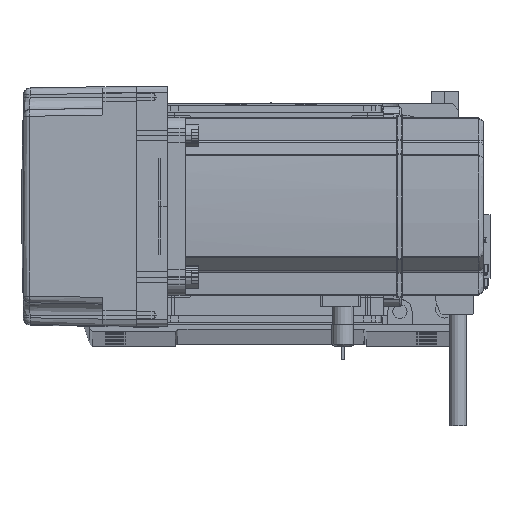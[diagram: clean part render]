
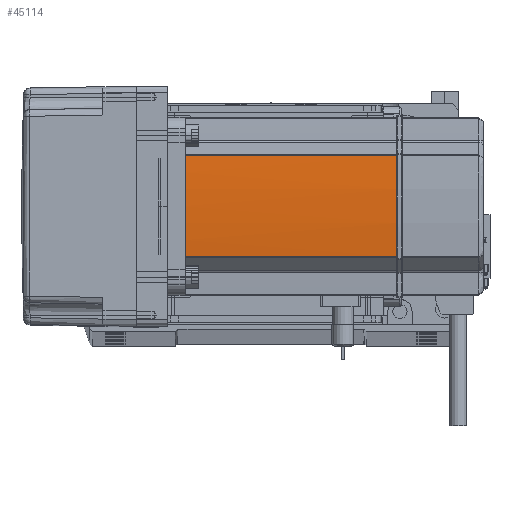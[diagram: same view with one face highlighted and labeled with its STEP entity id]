
A CAD part, top view. The second image highlights one B-rep face of the part: STEP entity #45114.
In plain terms, the highlighted cylindrical face has radius 270 mm (diameter 540 mm), a partial arc.
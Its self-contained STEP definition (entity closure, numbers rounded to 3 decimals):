
#333 = AXIS2_PLACEMENT_3D ( 'NONE', #58511, #30878, #15181 ) ;
#1460 = CARTESIAN_POINT ( 'NONE',  ( 39.042, 22.724, 134. ) ) ;
#2393 = DIRECTION ( 'NONE',  ( -1., 0., 0. ) ) ;
#5923 = ORIENTED_EDGE ( 'NONE', *, *, #41683, .T. ) ;
#6981 = LINE ( 'NONE', #17714, #56287 ) ;
#7133 = CARTESIAN_POINT ( 'NONE',  ( -230., 0., 134. ) ) ;
#8818 = CARTESIAN_POINT ( 'NONE',  ( 40., 0.127, 134. ) ) ;
#11813 = CARTESIAN_POINT ( 'NONE',  ( 39.042, 22.724, 39. ) ) ;
#13848 = CIRCLE ( 'NONE', #26458, 270. ) ;
#15181 = DIRECTION ( 'NONE',  ( -1., 0., 0. ) ) ;
#15547 = EDGE_CURVE ( 'NONE', #33854, #18395, #16710, .T. ) ;
#16414 = ORIENTED_EDGE ( 'NONE', *, *, #24949, .F. ) ;
#16710 = LINE ( 'NONE', #57377, #26766 ) ;
#17714 = CARTESIAN_POINT ( 'NONE',  ( 39.042, -22.724, 58. ) ) ;
#18395 = VERTEX_POINT ( 'NONE', #1460 ) ;
#19287 = ORIENTED_EDGE ( 'NONE', *, *, #51954, .F. ) ;
#20087 = DIRECTION ( 'NONE',  ( 0., 0., -1. ) ) ;
#22338 = ORIENTED_EDGE ( 'NONE', *, *, #54933, .T. ) ;
#22755 = DIRECTION ( 'NONE',  ( 0., 0., -1. ) ) ;
#23757 = DIRECTION ( 'NONE',  ( -1., 0., 0. ) ) ;
#24949 = EDGE_CURVE ( 'NONE', #56657, #37957, #48037, .T. ) ;
#26458 = AXIS2_PLACEMENT_3D ( 'NONE', #62679, #20087, #30876 ) ;
#26766 = VECTOR ( 'NONE', #36908, 1000. ) ;
#27483 = AXIS2_PLACEMENT_3D ( 'NONE', #7133, #66560, #23757 ) ;
#29055 = CARTESIAN_POINT ( 'NONE',  ( -230., 0., 58. ) ) ;
#29569 = EDGE_CURVE ( 'NONE', #56657, #37900, #52530, .T. ) ;
#30876 = DIRECTION ( 'NONE',  ( -1., 0., 0. ) ) ;
#30878 = DIRECTION ( 'NONE',  ( 0., 0., -1. ) ) ;
#31926 = CIRCLE ( 'NONE', #27483, 270. ) ;
#33854 = VERTEX_POINT ( 'NONE', #11813 ) ;
#33865 = DIRECTION ( 'NONE',  ( 0., 0., -1. ) ) ;
#34816 = CARTESIAN_POINT ( 'NONE',  ( 40., 0.042, 134. ) ) ;
#36908 = DIRECTION ( 'NONE',  ( 0., 0., 1. ) ) ;
#37900 = VERTEX_POINT ( 'NONE', #64806 ) ;
#37957 = VERTEX_POINT ( 'NONE', #65039 ) ;
#41683 = EDGE_CURVE ( 'NONE', #37900, #55183, #6981, .T. ) ;
#45114 = ADVANCED_FACE ( 'NONE', ( #52075 ), #57005, .T. ) ;
#45519 = ORIENTED_EDGE ( 'NONE', *, *, #15547, .T. ) ;
#46452 = CARTESIAN_POINT ( 'NONE',  ( 40., -0.127, 134. ) ) ;
#48037 = B_SPLINE_CURVE_WITH_KNOTS ( 'NONE', 3,
 ( #46452, #55968, #34816, #8818 ),
 .UNSPECIFIED., .F., .F.,
 ( 4, 4 ),
 ( 0., 1. ),
 .UNSPECIFIED. ) ;
#48746 = ORIENTED_EDGE ( 'NONE', *, *, #29569, .T. ) ;
#51954 = EDGE_CURVE ( 'NONE', #33854, #55183, #13848, .T. ) ;
#52075 = FACE_OUTER_BOUND ( 'NONE', #58494, .T. ) ;
#52530 = CIRCLE ( 'NONE', #333, 270. ) ;
#54214 = AXIS2_PLACEMENT_3D ( 'NONE', #29055, #22755, #2393 ) ;
#54933 = EDGE_CURVE ( 'NONE', #18395, #37957, #31926, .T. ) ;
#55183 = VERTEX_POINT ( 'NONE', #61686 ) ;
#55968 = CARTESIAN_POINT ( 'NONE',  ( 40., -0.042, 134. ) ) ;
#56287 = VECTOR ( 'NONE', #33865, 1000. ) ;
#56657 = VERTEX_POINT ( 'NONE', #64648 ) ;
#57005 = CYLINDRICAL_SURFACE ( 'NONE', #54214, 270. ) ;
#57377 = CARTESIAN_POINT ( 'NONE',  ( 39.042, 22.724, 58. ) ) ;
#58494 = EDGE_LOOP ( 'NONE', ( #5923, #19287, #45519, #22338, #16414, #48746 ) ) ;
#58511 = CARTESIAN_POINT ( 'NONE',  ( -230., 0., 134. ) ) ;
#61686 = CARTESIAN_POINT ( 'NONE',  ( 39.042, -22.724, 39. ) ) ;
#62679 = CARTESIAN_POINT ( 'NONE',  ( -230., 0., 39. ) ) ;
#64648 = CARTESIAN_POINT ( 'NONE',  ( 40., -0.127, 134. ) ) ;
#64806 = CARTESIAN_POINT ( 'NONE',  ( 39.042, -22.724, 134. ) ) ;
#65039 = CARTESIAN_POINT ( 'NONE',  ( 40., 0.127, 134. ) ) ;
#66560 = DIRECTION ( 'NONE',  ( 0., 0., -1. ) ) ;
